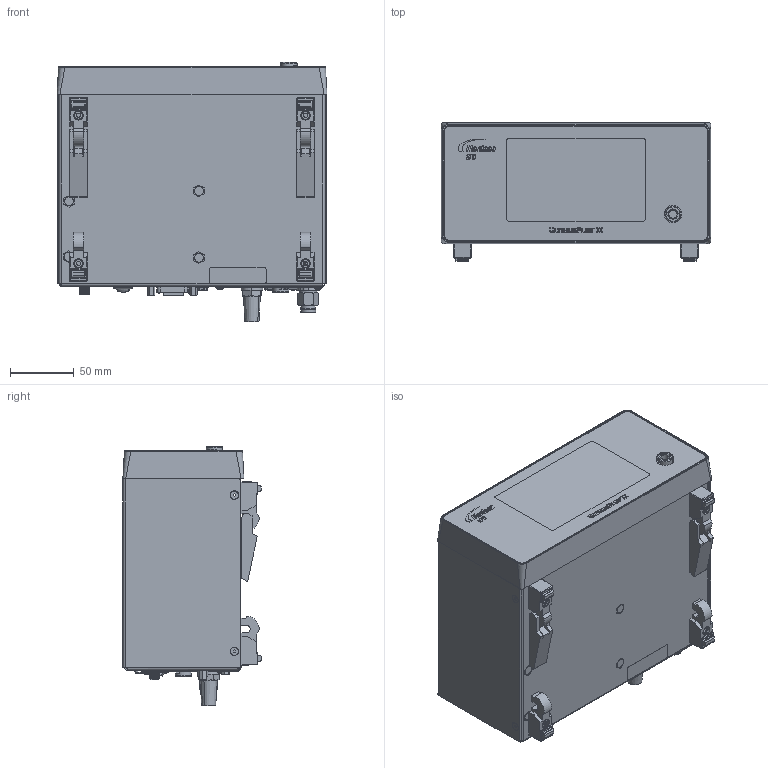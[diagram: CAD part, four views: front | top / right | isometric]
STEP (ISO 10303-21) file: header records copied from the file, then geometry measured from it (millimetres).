
FILE_DESCRIPTION (( 'STEP AP214' ), '1' );
FILE_NAME ('NORDSONEFD-7364362 DISPENSER ULTIMUS PLUS II 15PSI 1BAR.STEP', '2020-09-28T08:35:20', ( '' ), ( '' ), 'SwSTEP 2.0', 'SolidWorks 2020', '' );
FILE_SCHEMA (( 'AUTOMOTIVE_DESIGN' ));
Length unit declared in the file: inch
Products named in the file (1): NORDSONEFD-7364362  DISPENSER ULTIMUS PLUS II 15PSI 1BAR
Bounding box: 211.84 x 108.49 x 203.39 mm (x, y, z)
Surface area: 294482.5 mm2 (no closed solid volume)
Topology: 0 solids, 259 shells, 841 faces, 8506 edges, 7865 vertices
Faces by surface type: plane 529, cylinder 188, cone 67, torus 30, bspline 23, sphere 4
Entity records: 94263 total; most frequent: CARTESIAN_POINT 37728, ORIENTED_EDGE 9659, DIRECTION 9381, EDGE_CURVE 8505, VERTEX_POINT 7865, VECTOR 4693, LINE 4693, AXIS2_PLACEMENT_3D 2344
